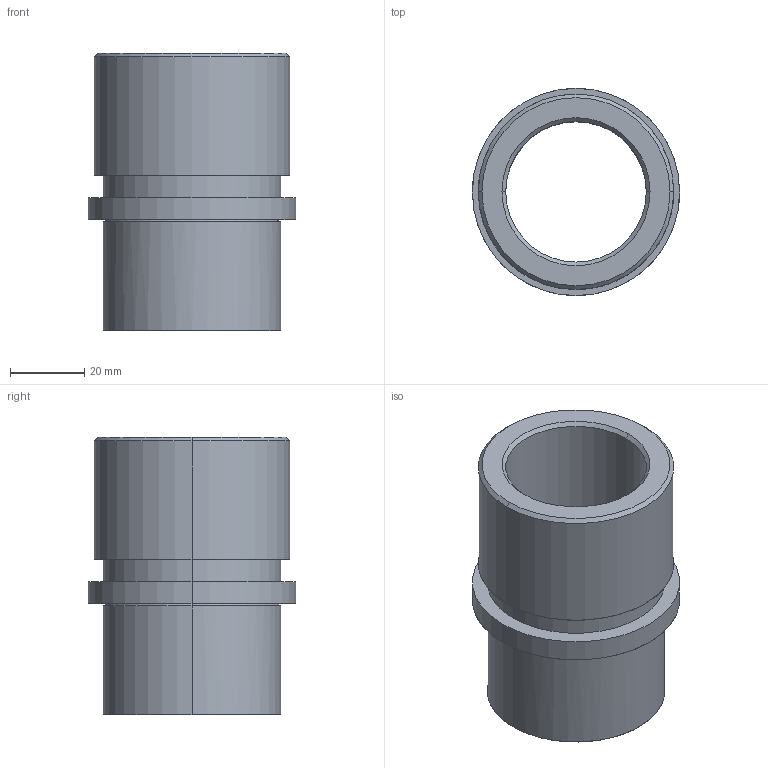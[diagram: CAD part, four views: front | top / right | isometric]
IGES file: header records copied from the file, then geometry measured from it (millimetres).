
Start section: START RECORD GO HERE.
Global section: file name: 735-30.igs; native system: DASSAULT SYSTEMES CATIA V5 R20 - www.3ds.com; preprocessor: CATIA Version 5 Release 20 ; author: Utente; organization: NB04-ASUS; date: 20210116.202506; units: millimetre
Bounding box: 56 x 56 x 75 mm (x, y, z)
Surface area: 24335.8 mm2 (no closed solid volume)
Topology: 0 solids, 0 shells, 25 faces, 100 edges, 100 vertices
Faces by surface type: revolution 20, plane 5
